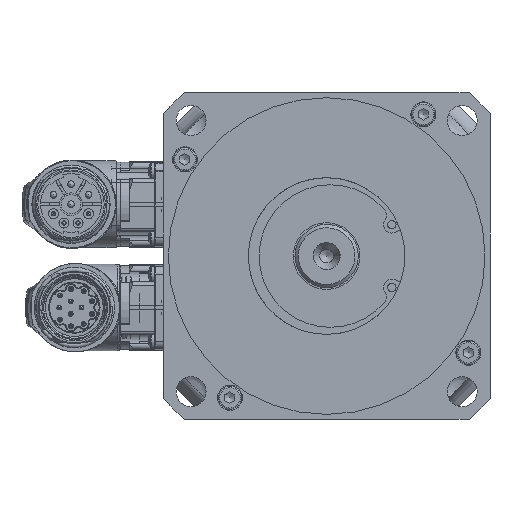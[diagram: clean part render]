
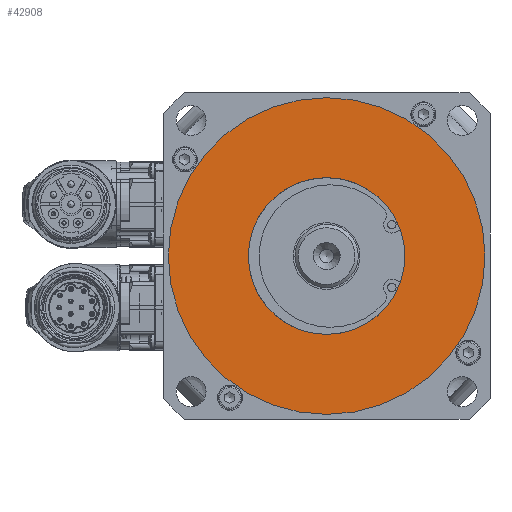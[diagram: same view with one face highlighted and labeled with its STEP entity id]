
A CAD part, left-side view. The second image highlights one B-rep face of the part: STEP entity #42908.
In plain terms, the highlighted planar face has unit normal (-1, 0, 0).
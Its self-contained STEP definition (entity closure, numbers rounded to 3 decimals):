
#2328=FACE_BOUND('',#13740,.T.);
#10971=FACE_OUTER_BOUND('',#13739,.T.);
#13739=EDGE_LOOP('',(#30166));
#13740=EDGE_LOOP('',(#30167));
#16961=CIRCLE('',#45919,23.5);
#17002=CIRCLE('',#45986,47.5);
#19734=VERTEX_POINT('',#64376);
#19783=VERTEX_POINT('',#64510);
#23782=EDGE_CURVE('',#19734,#19734,#16961,.T.);
#23841=EDGE_CURVE('',#19783,#19783,#17002,.T.);
#30166=ORIENTED_EDGE('',*,*,#23841,.T.);
#30167=ORIENTED_EDGE('',*,*,#23782,.F.);
#42106=PLANE('',#45987);
#42908=ADVANCED_FACE('',(#10971,#2328),#42106,.F.);
#45919=AXIS2_PLACEMENT_3D('',#64377,#51567,#51568);
#45986=AXIS2_PLACEMENT_3D('',#64511,#51719,#51720);
#45987=AXIS2_PLACEMENT_3D('',#64512,#51721,#51722);
#51567=DIRECTION('center_axis',(-1.,0.,0.));
#51568=DIRECTION('ref_axis',(0.,1.,0.));
#51719=DIRECTION('center_axis',(-1.,0.,0.));
#51720=DIRECTION('ref_axis',(0.,0.,1.));
#51721=DIRECTION('center_axis',(1.,0.,0.));
#51722=DIRECTION('ref_axis',(0.,0.,-1.));
#64376=CARTESIAN_POINT('',(-37.394,-23.5,0.));
#64377=CARTESIAN_POINT('Origin',(-37.394,0.,
0.));
#64510=CARTESIAN_POINT('',(-37.394,47.5,0.));
#64511=CARTESIAN_POINT('Origin',(-37.394,0.,
0.));
#64512=CARTESIAN_POINT('Origin',(-37.394,47.5,0.));
